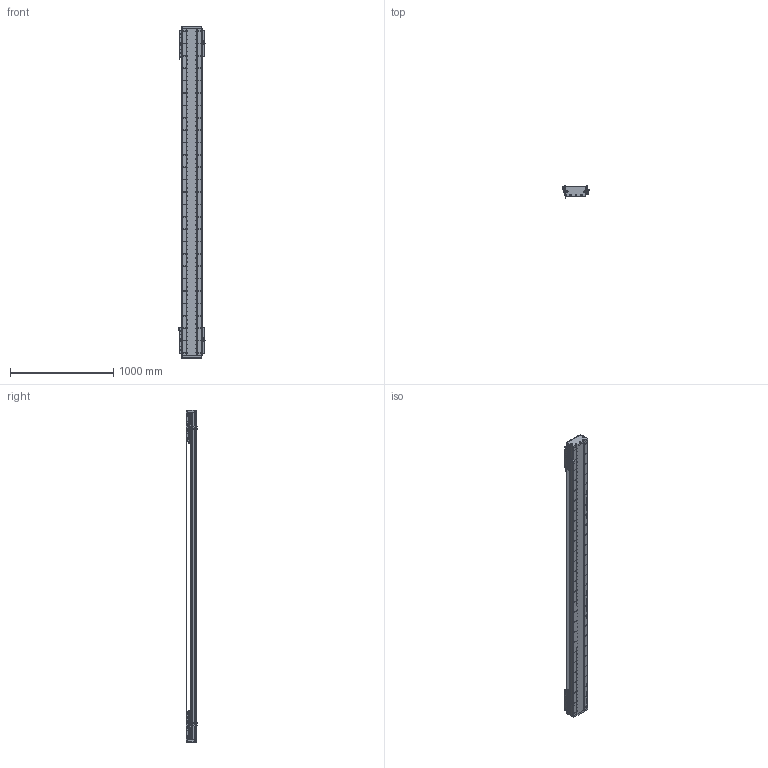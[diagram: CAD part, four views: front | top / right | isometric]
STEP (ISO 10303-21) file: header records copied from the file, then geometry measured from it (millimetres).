
FILE_DESCRIPTION (( 'STEP AP203' ), '1' );
FILE_NAME ('DA-C195-2-C3-T2600-C010-0.2 眻盄萇儂.STEP', '2025-08-15T00:51:02', ( '' ), ( '' ), 'SwSTEP 2.0', 'SolidWorks 2019', '' );
FILE_SCHEMA (( 'CONFIG_CONTROL_DESIGN' ));
Length unit declared in the file: millimetre
Products named in the file (19): DA195詩湍菜輸; DA-C195-GD-DB-H-00 傷啣; DKW-KGZ-ZJ-00 中间光电开关支架; LMT黍杅芛; DA-C195-2-C3-T2600-C010-0.2 眻盄萇儂; IU-CU195-L-00 菁釱(L3180); MS200 棠掑喜S315-T240; IU-CU195-L 菁釱絳寢; PM-Y65嫖萇羲壽郪璃; PM-T45ㄗ侂狟ㄘ; CU195-C3賑輸-俋楷; DA95-HXJ-00 遣喳砎蝶; DKW-GYP-ZJ-00 笢潔嫖萇覜茼え; DKW168-HXJ-ZJ-00 笢潔滅袉砎蝶; 葩璃 DA95-GT-T-00; DA195詩湍郪璃; DA165-GYP-00 光电感应片(默认); DA195詩湍嶺輸; DA195詩湍裔啣
Assembly tree (37 placements, depth 3):
  DA-C195-2-C3-T2600-C010-0.2 眻盄萇儂
    DA195詩湍郪璃
      DA195詩湍菜輸  x2
      DA195詩湍裔啣
      DA195詩湍嶺輸  x2
      DA95-HXJ-00 遣喳砎蝶  x8
      DA-C195-GD-DB-H-00 傷啣  x2
    IU-CU195-L 菁釱絳寢
      IU-CU195-L-00 菁釱(L3180)
      葩璃 DA95-GT-T-00  x4
    LMT黍杅芛  x2
    MS200 棠掑喜S315-T240
    PM-T45ㄗ侂狟ㄘ  x4
    DA165-GYP-00 光电感应片(默认)  x2
    PM-Y65嫖萇羲壽郪璃
    DKW168-HXJ-ZJ-00 笢潔滅袉砎蝶
    DKW-GYP-ZJ-00 笢潔嫖萇覜茼え
    DKW-KGZ-ZJ-00 中间光电开关支架
    CU195-C3賑輸-俋楷  x2
Bounding box: 258.2 x 115.45 x 3220 mm (x, y, z)
Volume: 20039569.5 mm3; surface area: 5810088.3 mm2
Topology: 154 solids, 218 shells, 7151 faces, 19431 edges, 12149 vertices
Faces by surface type: cylinder 3538, plane 2561, cone 884, torus 88, sphere 72, bspline 8
Entity records: 163289 total; most frequent: CARTESIAN_POINT 45385, ORIENTED_EDGE 24878, DIRECTION 23344, EDGE_CURVE 12439, AXIS2_PLACEMENT_3D 8617, VERTEX_POINT 8074, LINE 6110, VECTOR 6110
